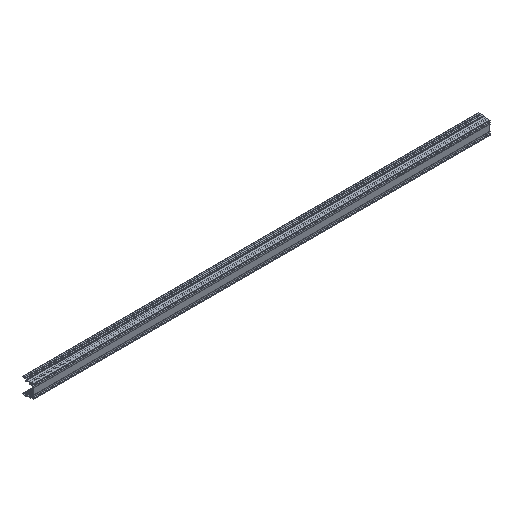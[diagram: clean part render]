
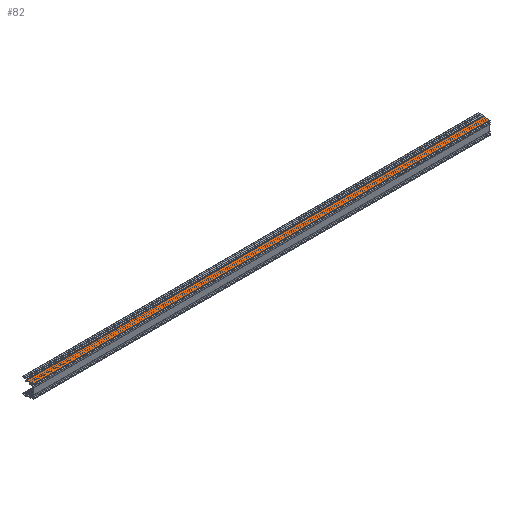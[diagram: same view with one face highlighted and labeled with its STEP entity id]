
A CAD part, isometric view. The second image highlights one B-rep face of the part: STEP entity #82.
In plain terms, the highlighted planar face has unit normal (0, 0, 1).
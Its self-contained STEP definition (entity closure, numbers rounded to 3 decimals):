
#82 = ADVANCED_FACE( '', ( #202 ), #203, .F. );
#202 = FACE_OUTER_BOUND( '', #426, .T. );
#203 = PLANE( '', #427 );
#426 = EDGE_LOOP( '', ( #791, #792, #793, #794 ) );
#427 = AXIS2_PLACEMENT_3D( '', #795, #796, #797 );
#791 = ORIENTED_EDGE( '', *, *, #1755, .T. );
#792 = ORIENTED_EDGE( '', *, *, #1756, .F. );
#793 = ORIENTED_EDGE( '', *, *, #1640, .F. );
#794 = ORIENTED_EDGE( '', *, *, #1754, .T. );
#795 = CARTESIAN_POINT( '', ( 1080., 15.19, 16. ) );
#796 = DIRECTION( '', ( 0., 0., -1. ) );
#797 = DIRECTION( '', ( -1., 0., 0. ) );
#1640 = EDGE_CURVE( '', #1976, #1978, #1979, .T. );
#1754 = EDGE_CURVE( '', #1976, #2199, #2201, .T. );
#1755 = EDGE_CURVE( '', #2199, #2202, #2203, .T. );
#1756 = EDGE_CURVE( '', #1978, #2202, #2204, .T. );
#1976 = VERTEX_POINT( '', #2533 );
#1978 = VERTEX_POINT( '', #2536 );
#1979 = LINE( '', #2537, #2538 );
#2199 = VERTEX_POINT( '', #2827 );
#2201 = LINE( '', #2830, #2831 );
#2202 = VERTEX_POINT( '', #2832 );
#2203 = LINE( '', #2833, #2834 );
#2204 = LINE( '', #2835, #2836 );
#2533 = CARTESIAN_POINT( '', ( 1080., 15.19, 16. ) );
#2536 = CARTESIAN_POINT( '', ( 1080., 0.3, 16. ) );
#2537 = CARTESIAN_POINT( '', ( 1080., 15.19, 16. ) );
#2538 = VECTOR( '', #3316, 1000. );
#2827 = CARTESIAN_POINT( '', ( 0., 15.19, 16. ) );
#2830 = CARTESIAN_POINT( '', ( 1080., 15.19, 16. ) );
#2831 = VECTOR( '', #3516, 1000. );
#2832 = CARTESIAN_POINT( '', ( 0., 0.3, 16. ) );
#2833 = CARTESIAN_POINT( '', ( 0., 15.19, 16. ) );
#2834 = VECTOR( '', #3517, 1000. );
#2835 = CARTESIAN_POINT( '', ( 1080., 0.3, 16. ) );
#2836 = VECTOR( '', #3518, 1000. );
#3316 = DIRECTION( '', ( 0., -1., 0. ) );
#3516 = DIRECTION( '', ( -1., 0., 0. ) );
#3517 = DIRECTION( '', ( 0., -1., 0. ) );
#3518 = DIRECTION( '', ( -1., 0., 0. ) );
